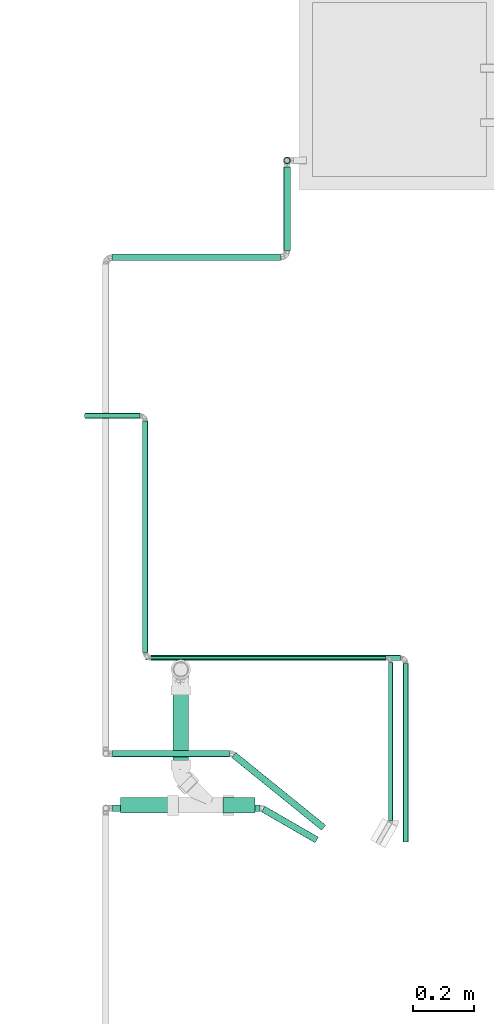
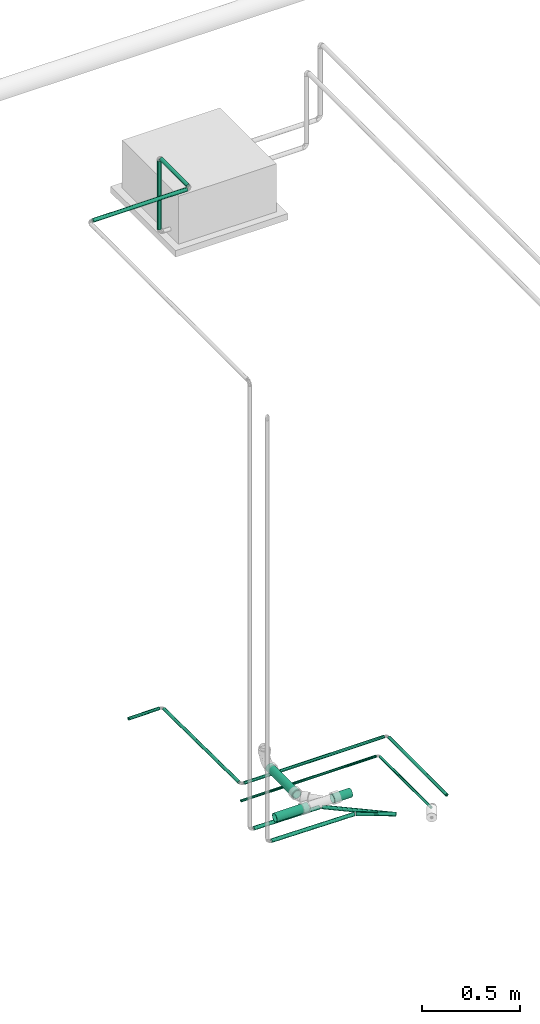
# One storey, part 10 of 35: 16 flow segments.
"""IFC2X3 building model written with IfcOpenShell, lengths in millimetres."""

from ifc_helpers import new_model, entity, si_unit, converted_unit, derived_unit, direction, frame, origin_with_axes, origin_2d_with_axis, place, context, subcontext, project, spatial, hollow_circle, extrude, source, transform, mapped, type_object, element, save


model = new_model("IFC2X3")

# Units and contexts
model_context = context("Model", 3, precision=0.01, world=frame((0.0, 4.29681676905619e-09, 0.0)), true_north=direction((4.01073788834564e-13, 1.0)))
plan_context = context("Plan", 3, precision=0.01, world=frame((0.0, 4.29681676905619e-09, 0.0)), true_north=direction((4.01073788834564e-13, 1.0)))
body_context = subcontext(model_context, "Body", "Model", "MODEL_VIEW")
ifc_project = project(units=[converted_unit("PLANEANGLEUNIT", "DEGREE", entity("IfcPositiveLengthMeasure", 0.0174532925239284), si_unit("PLANEANGLEUNIT", "RADIAN"), dimensions=[0, 0, 0, 0, 0, 0, 0]), si_unit("AREAUNIT", "SQUARE_METRE"), si_unit("LENGTHUNIT", "METRE", prefix="MILLI"), si_unit("MASSUNIT", "GRAM", prefix="KILO"), si_unit("POWERUNIT", "WATT"), si_unit("PRESSUREUNIT", "PASCAL"), si_unit("FORCEUNIT", "NEWTON", prefix="KILO"), si_unit("ELECTRICVOLTAGEUNIT", "VOLT"), si_unit("ELECTRICCURRENTUNIT", "AMPERE"), si_unit("THERMODYNAMICTEMPERATUREUNIT", "DEGREE_CELSIUS"), si_unit("TIMEUNIT", "SECOND"), si_unit("VOLUMEUNIT", "CUBIC_METRE"), derived_unit("LINEARVELOCITYUNIT", [(si_unit("LENGTHUNIT", "METRE"), 1), (si_unit("TIMEUNIT", "SECOND"), -1)]), derived_unit("VOLUMETRICFLOWRATEUNIT", [(si_unit("VOLUMEUNIT", "CUBIC_METRE"), 1), (si_unit("TIMEUNIT", "SECOND"), -1)]), derived_unit("THERMALTRANSMITTANCEUNIT", [(si_unit("POWERUNIT", "WATT"), 1), (si_unit("THERMODYNAMICTEMPERATUREUNIT", "KELVIN"), -1), (si_unit("AREAUNIT", "SQUARE_METRE"), -1)]), derived_unit("SOUNDPRESSUREUNIT", [(si_unit("PRESSUREUNIT", "PASCAL"), 1)])], contexts=[model_context, plan_context])

# Site, building, storey
site_placement = place(None, frame((0.0, -4.29681676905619e-09, 0.0), z_axis=(0.0, 0.0, 1.0), x_axis=(1.0, 0.0, 0.0)))
site = spatial("IfcSite", under=ifc_project, at=site_placement, Name="ENGM", CompositionType="ELEMENT")
building_placement = place(site_placement, frame((0.0, 4.29681676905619e-09, 0.0), z_axis=(0.0, 0.0, 1.0), x_axis=(1.0, 0.0, 0.0)))
building = spatial("IfcBuilding", under=site, at=building_placement, Name="TH", CompositionType="ELEMENT")
storey_placement = place(building_placement, frame((0.0, 0.0, 210200.0), z_axis=(0.0, 0.0, 1.0), x_axis=(1.0, 0.0, 0.0)))
storey = spatial("IfcBuildingStorey", under=building, at=storey_placement, Name="Nivå F - 0,7 m", CompositionType="ELEMENT", Elevation=210200.0)

# Flow segments
pipe_segment_type_1 = type_object("IfcPipeSegmentType", Name="PP avløpsrør", PredefinedType="RIGIDSEGMENT")
shared_shape_1 = source(origin_with_axes(), body_context, "Body", "SweptSolid", [
    extrude(hollow_circle(Radius=25.0, WallThickness=2.0, at=origin_2d_with_axis()), frame((0.0, 0.0, 0.0), z_axis=(1.0, 0.0, 0.0), x_axis=(0.0, 1.0, 0.0)), (0.0, 0.0, 1.0), 192.6),
])
flow_segment_1_placement = place(storey_placement, frame((898740.69109, 483491.12945, 317.089459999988), z_axis=(4.49999999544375e-05, 0.0, 0.9999999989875), x_axis=(-0.9999999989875, 0.0, 4.49999999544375e-05)))
element("IfcFlowSegment", 1, at=flow_segment_1_placement, inside=storey, type_object=pipe_segment_type_1, Name="PP avløpsrør", context=body_context, shape_type="MappedRepresentation", body=[
    mapped(shared_shape_1, transform((0.0, 0.0, 0.0), scale=1.0)),
])
pipe_segment_type_2 = type_object("IfcPipeSegmentType", Name="Kobberrør", PredefinedType="RIGIDSEGMENT")
shared_shape_2 = source(origin_with_axes(), body_context, "Body", "SweptSolid", [
    extrude(hollow_circle(Radius=9.0, WallThickness=2.0, at=origin_2d_with_axis()), frame((0.0, 0.0, 0.0), z_axis=(1.0, 0.0, 0.0), x_axis=(0.0, 1.0, 0.0)), (0.0, 0.0, 1.0), 590.6),
])
flow_segment_2_placement = place(storey_placement, frame((899490.50163, 483369.12411, 202.07561), z_axis=(0.0, -4.09999999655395e-05, 0.9999999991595), x_axis=(0.0, 0.9999999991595, 4.09999999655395e-05)))
element("IfcFlowSegment", 2, at=flow_segment_2_placement, inside=storey, type_object=pipe_segment_type_2, Name="Kobberrør", context=body_context, shape_type="MappedRepresentation", body=[
    mapped(shared_shape_2, transform((0.0, 0.0, 0.0), scale=1.0)),
])
shared_shape_3 = source(origin_with_axes(), body_context, "Body", "SweptSolid", [
    extrude(hollow_circle(Radius=9.0, WallThickness=2.0, at=origin_2d_with_axis()), frame((0.0, 0.0, 0.0), z_axis=(1.0, 0.0, 0.0), x_axis=(0.0, 1.0, 0.0)), (0.0, 0.0, 1.0), 824.0),
])
flow_segment_3_placement = place(storey_placement, frame((899472.50163, 483977.73199, 202.100000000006), z_axis=(0.0, 0.0, 1.0), x_axis=(-1.0, 0.0, 0.0)))
element("IfcFlowSegment", 3, at=flow_segment_3_placement, inside=storey, type_object=pipe_segment_type_2, Name="Kobberrør", context=body_context, shape_type="MappedRepresentation", body=[
    mapped(shared_shape_3, transform((0.0, 0.0, 0.0), scale=1.0)),
])
shared_shape_4 = source(origin_with_axes(), body_context, "Body", "SweptSolid", [
    extrude(hollow_circle(Radius=7.5, WallThickness=2.0, at=origin_2d_with_axis()), frame((0.0, 0.0, 0.0), z_axis=(1.0, 0.0, 0.0), x_axis=(0.0, 1.0, 0.0)), (0.0, 0.0, 1.0), 521.0),
])
flow_segment_4_placement = place(storey_placement, frame((899440.50163, 483441.75123, 97.1000000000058), z_axis=(0.0, 0.0, 1.0), x_axis=(0.0, 1.0, 0.0)))
element("IfcFlowSegment", 4, at=flow_segment_4_placement, inside=storey, type_object=pipe_segment_type_2, Name="Kobberrør", context=body_context, shape_type="MappedRepresentation", body=[
    mapped(shared_shape_4, transform((0.0, 0.0, 0.0), scale=1.0)),
])
shared_shape_5 = source(origin_with_axes(), body_context, "Body", "SweptSolid", [
    extrude(hollow_circle(Radius=7.5, WallThickness=2.0, at=origin_2d_with_axis()), frame((0.0, 0.0, 0.0), z_axis=(1.0, 0.0, 0.0), x_axis=(0.0, 1.0, 0.0)), (0.0, 0.0, 1.0), 795.0),
])
flow_segment_5_placement = place(storey_placement, frame((899425.50163, 483977.73199, 97.1000000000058), z_axis=(0.0, 0.0, 1.0), x_axis=(-1.0, 0.0, 0.0)))
element("IfcFlowSegment", 5, at=flow_segment_5_placement, inside=storey, type_object=pipe_segment_type_2, Name="Kobberrør", context=body_context, shape_type="MappedRepresentation", body=[
    mapped(shared_shape_5, transform((0.0, 0.0, 0.0), scale=1.0)),
])
shared_shape_6 = source(origin_with_axes(), body_context, "Body", "SweptSolid", [
    extrude(hollow_circle(Radius=9.0, WallThickness=2.0, at=origin_2d_with_axis()), frame((0.0, 0.0, 0.0), z_axis=(1.0, 0.0, 0.0), x_axis=(0.0, 1.0, 0.0)), (0.0, 0.0, 1.0), 764.0),
])
flow_segment_6_placement = place(storey_placement, frame((898630.50163, 483995.73109, 201.920010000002), z_axis=(0.0, 0.00999900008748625, 0.999950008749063), x_axis=(0.0, 0.999950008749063, -0.00999900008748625)))
element("IfcFlowSegment", 6, at=flow_segment_6_placement, inside=storey, type_object=pipe_segment_type_2, Name="Kobberrør", context=body_context, shape_type="MappedRepresentation", body=[
    mapped(shared_shape_6, transform((0.0, 0.0, 0.0), scale=1.0)),
])
shared_shape_7 = source(origin_with_axes(), body_context, "Body", "SweptSolid", [
    extrude(hollow_circle(Radius=9.0, WallThickness=2.0, at=origin_2d_with_axis()), frame((0.0, 0.0, 0.0), z_axis=(1.0, 0.0, 0.0), x_axis=(0.0, 1.0, 0.0)), (0.0, 0.0, 1.0), 182.0),
])
flow_segment_7_placement = place(storey_placement, frame((898612.50433, 484777.73199, 193.920030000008), z_axis=(-0.00999999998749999, 0.0, 0.999949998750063), x_axis=(-0.999949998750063, 0.0, -0.00999999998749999)))
element("IfcFlowSegment", 7, at=flow_segment_7_placement, inside=storey, type_object=pipe_segment_type_2, Name="Kobberrør", context=body_context, shape_type="MappedRepresentation", body=[
    mapped(shared_shape_7, transform((0.0, 0.0, 0.0), scale=1.0)),
])
shared_shape_8 = source(origin_with_axes(), body_context, "Body", "SweptSolid", [
    extrude(hollow_circle(Radius=11.0, WallThickness=2.0, at=origin_2d_with_axis()), frame((0.0, 0.0, 0.0), z_axis=(1.0, 0.0, 0.0), x_axis=(0.0, 1.0, 0.0)), (0.0, 0.0, 1.0), 426.0),
])
flow_segment_8_placement = place(storey_placement, frame((899098.44747, 485620.66876, 2918.24952000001), z_axis=(1.0, 0.0, 0.0), x_axis=(0.0, 3.999999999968e-06, -0.999999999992)))
element("IfcFlowSegment", 8, at=flow_segment_8_placement, inside=storey, type_object=pipe_segment_type_2, Name="Kobberrør", context=body_context, shape_type="MappedRepresentation", body=[
    mapped(shared_shape_8, transform((0.0, 0.0, 0.0), scale=1.0)),
])
shared_shape_9 = source(origin_with_axes(), body_context, "Body", "SweptSolid", [
    extrude(hollow_circle(Radius=11.0, WallThickness=2.0, at=origin_2d_with_axis()), frame((0.0, 0.0, 0.0), z_axis=(1.0, 0.0, 0.0), x_axis=(0.0, 1.0, 0.0)), (0.0, 0.0, 1.0), 276.0),
])
flow_segment_9_placement = place(storey_placement, frame((899098.48428, 485598.66876, 2940.09995999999), z_axis=(0.0, 0.0, 1.0), x_axis=(0.0, -1.0, 0.0)))
element("IfcFlowSegment", 9, at=flow_segment_9_placement, inside=storey, type_object=pipe_segment_type_2, Name="Kobberrør", context=body_context, shape_type="MappedRepresentation", body=[
    mapped(shared_shape_9, transform((0.0, 0.0, 0.0), scale=1.0)),
])
shared_shape_10 = source(origin_with_axes(), body_context, "Body", "SweptSolid", [
    extrude(hollow_circle(Radius=11.0, WallThickness=2.0, at=origin_2d_with_axis()), frame((0.0, 0.0, 0.0), z_axis=(1.0, 0.0, 0.0), x_axis=(0.0, 1.0, 0.0)), (0.0, 0.0, 1.0), 554.5),
])
flow_segment_10_placement = place(storey_placement, frame((899076.48428, 485300.66876, 2940.09995999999), z_axis=(0.0, 0.0, 1.0), x_axis=(-1.0, 0.0, 0.0)))
element("IfcFlowSegment", 10, at=flow_segment_10_placement, inside=storey, type_object=pipe_segment_type_2, Name="Kobberrør", context=body_context, shape_type="MappedRepresentation", body=[
    mapped(shared_shape_10, transform((0.0, 0.0, 0.0), scale=1.0)),
])
shared_shape_11 = source(origin_with_axes(), body_context, "Body", "SweptSolid", [
    extrude(hollow_circle(Radius=11.0, WallThickness=2.0, at=origin_2d_with_axis()), frame((0.0, 0.0, 0.0), z_axis=(1.0, 0.0, 0.0), x_axis=(0.0, 1.0, 0.0)), (0.0, 0.0, 1.0), 387.2),
])
flow_segment_11_placement = place(storey_placement, frame((898521.73955, 483661.97713, 155.978169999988), z_axis=(-4.20000148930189e-05, -0.999991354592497, -0.00415800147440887), x_axis=(0.999949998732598, -4.17896534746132e-07, -0.0100000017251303)))
element("IfcFlowSegment", 11, at=flow_segment_11_placement, inside=storey, type_object=pipe_segment_type_2, Name="Kobberrør", context=body_context, shape_type="MappedRepresentation", body=[
    mapped(shared_shape_11, transform((0.0, 0.0, 0.0), scale=1.0)),
])
shared_shape_12 = source(origin_with_axes(), body_context, "Body", "SweptSolid", [
    extrude(hollow_circle(Radius=11.0, WallThickness=2.0, at=origin_2d_with_axis()), frame((0.0, 0.0, 0.0), z_axis=(1.0, 0.0, 0.0), x_axis=(0.0, 1.0, 0.0)), (0.0, 0.0, 1.0), 381.8),
])
flow_segment_12_placement = place(storey_placement, frame((898922.71849, 483657.07528, 151.951360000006), z_axis=(0.00707100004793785, -0.00707000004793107, 0.999950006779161), x_axis=(0.777126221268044, -0.629266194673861, -0.00994446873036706)))
element("IfcFlowSegment", 12, at=flow_segment_12_placement, inside=storey, type_object=pipe_segment_type_2, Name="Kobberrør", context=body_context, shape_type="MappedRepresentation", body=[
    mapped(shared_shape_12, transform((0.0, 0.0, 0.0), scale=1.0)),
])
shared_shape_13 = source(origin_with_axes(), body_context, "Body", "SweptSolid", [
    extrude(hollow_circle(Radius=11.0, WallThickness=2.0, at=origin_2d_with_axis()), frame((0.0, 0.0, 0.0), z_axis=(1.0, 0.0, 0.0), x_axis=(0.0, 1.0, 0.0)), (0.0, 0.0, 1.0), 487.1),
])
flow_segment_13_placement = place(storey_placement, frame((898521.77954, 483481.65479, 188.278770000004), z_axis=(-2.69213640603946e-05, -0.999996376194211, -0.00269200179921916), x_axis=(0.999949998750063, 0.0, -0.00999999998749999)))
element("IfcFlowSegment", 13, at=flow_segment_13_placement, inside=storey, type_object=pipe_segment_type_2, Name="Kobberrør", context=body_context, shape_type="MappedRepresentation", body=[
    mapped(shared_shape_13, transform((0.0, 0.0, 0.0), scale=1.0)),
])
shared_shape_14 = source(origin_with_axes(), body_context, "Body", "SweptSolid", [
    extrude(hollow_circle(Radius=11.0, WallThickness=2.0, at=origin_2d_with_axis()), frame((0.0, 0.0, 0.0), z_axis=(1.0, 0.0, 0.0), x_axis=(0.0, 1.0, 0.0)), (0.0, 0.0, 1.0), 204.1),
])
flow_segment_14_placement = place(storey_placement, frame((899019.86297, 483478.68057, 183.289929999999), z_axis=(0.0087509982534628, -0.00508099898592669, 0.999948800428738), x_axis=(0.865980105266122, -0.499976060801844, -0.0101190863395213)))
element("IfcFlowSegment", 14, at=flow_segment_14_placement, inside=storey, type_object=pipe_segment_type_2, Name="Kobberrør", context=body_context, shape_type="MappedRepresentation", body=[
    mapped(shared_shape_14, transform((0.0, 0.0, 0.0), scale=1.0)),
])
shared_shape_15 = source(origin_with_axes(), body_context, "Body", "SweptSolid", [
    extrude(hollow_circle(Radius=25.0, WallThickness=2.0, at=origin_2d_with_axis()), frame((0.0, 0.0, 0.0), z_axis=(1.0, 0.0, 0.0), x_axis=(0.0, 1.0, 0.0)), (0.0, 0.0, 1.0), 106.9),
])
flow_segment_15_placement = place(storey_placement, frame((898993.27732, 483491.12945, 317.075630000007), z_axis=(4.49999999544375e-05, 0.0, 0.9999999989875), x_axis=(-0.9999999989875, 0.0, 4.49999999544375e-05)))
element("IfcFlowSegment", 15, at=flow_segment_15_placement, inside=storey, type_object=pipe_segment_type_1, Name="PP avløpsrør", context=body_context, shape_type="MappedRepresentation", body=[
    mapped(shared_shape_15, transform((0.0, 0.0, 0.0), scale=1.0)),
])
shared_shape_16 = source(origin_with_axes(), body_context, "Body", "SweptSolid", [
    extrude(hollow_circle(Radius=25.0, WallThickness=2.0, at=origin_2d_with_axis()), frame((0.0, 0.0, 0.0), z_axis=(1.0, 0.0, 0.0), x_axis=(0.0, 1.0, 0.0)), (0.0, 0.0, 1.0), 275.3),
])
flow_segment_16_placement = place(storey_placement, frame((898747.47481, 483610.15357, 318.592169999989), z_axis=(0.0, -0.00999999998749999, 0.999949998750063), x_axis=(0.0, 0.999949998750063, 0.00999999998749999)))
element("IfcFlowSegment", 16, at=flow_segment_16_placement, inside=storey, type_object=pipe_segment_type_1, Name="PP avløpsrør", context=body_context, shape_type="MappedRepresentation", body=[
    mapped(shared_shape_16, transform((0.0, 0.0, 0.0), scale=1.0)),
])

save(model, "model.ifc")
